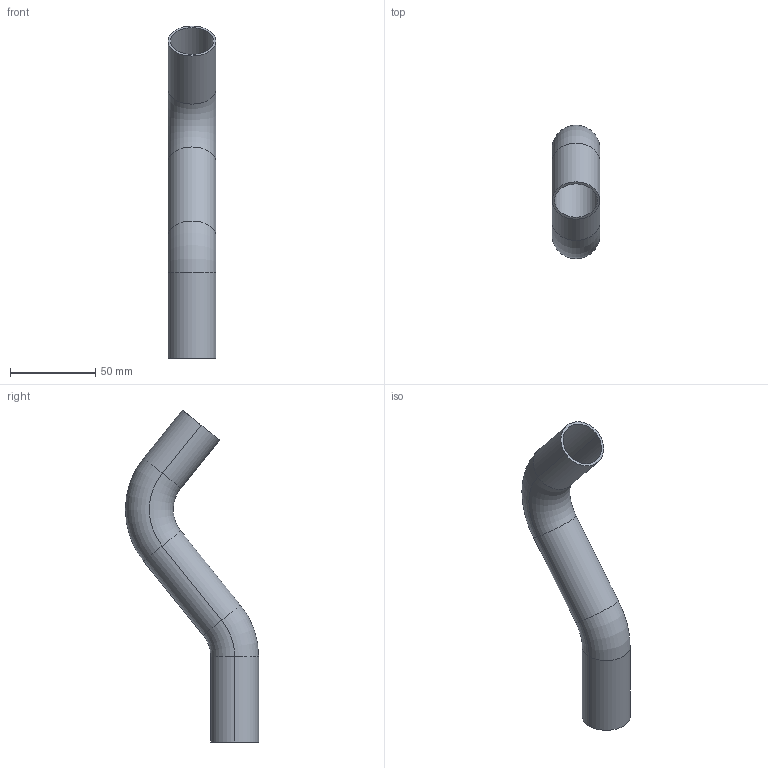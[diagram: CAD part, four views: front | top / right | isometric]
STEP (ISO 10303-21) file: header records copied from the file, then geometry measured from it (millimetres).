
FILE_DESCRIPTION(('OneSpaceDesigner STEP Export'),'2;1');
FILE_NAME('R2717 28x28.stp','2010-06-10T 9:55:40',(''),(''),'OneSpace Designer STEP processor for AP214 (Solid Model)','OneSpace Modeling 15.00A 14-Mar-2007 (C) CoCreate Software GmbH','');
FILE_SCHEMA(('AUTOMOTIVE_DESIGN { 1 0 10303 214 1 1 1 1 }'));
Length unit declared in the file: millimetre
Products named in the file (2): R2717_28x28
Assembly tree (1 placements, depth 2):
  R2717_28x28
    R2717_28x28
Bounding box: 28 x 78 x 194.23 mm (x, y, z)
Volume: 26345.3 mm3; surface area: 35376.9 mm2
Topology: 1 solids, 1 shells, 22 faces, 44 edges, 24 vertices
Faces by surface type: cylinder 12, torus 8, plane 2
Entity records: 531 total; most frequent: DIRECTION 88, ORIENTED_EDGE 88, CARTESIAN_POINT 74, EDGE_CURVE 44, AXIS2_PLACEMENT_3D 38, CIRCLE 24, VERTEX_POINT 24, EDGE_LOOP 24
